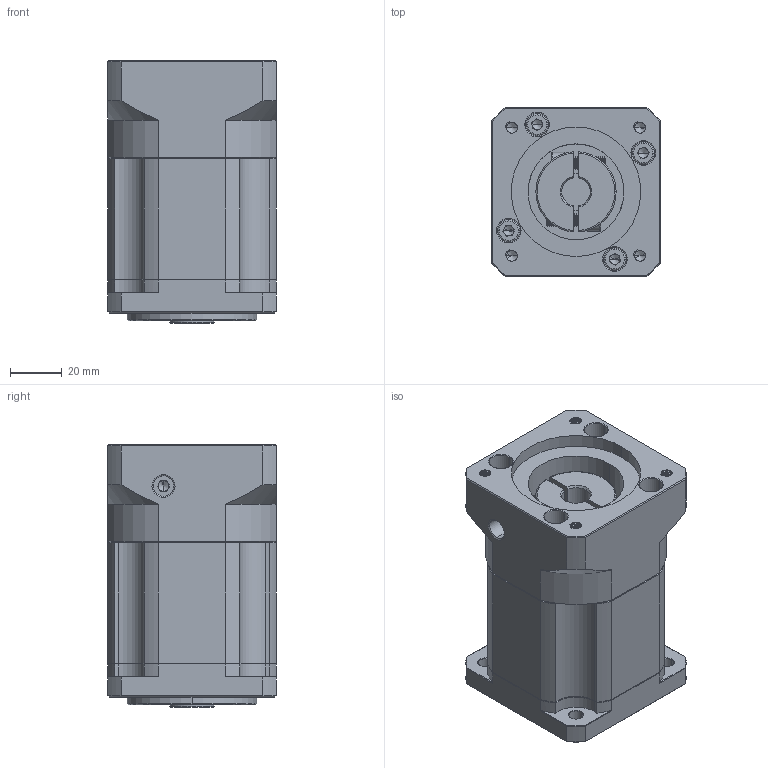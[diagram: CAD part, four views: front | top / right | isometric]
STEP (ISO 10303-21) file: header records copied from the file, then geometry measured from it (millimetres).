
FILE_DESCRIPTION (( 'STEP AP214' ), '1' );
FILE_NAME ('ZB60-K10-L2-11-50-70-M5.STEP', '2022-04-17T07:33:47', ( '' ), ( 'Microsoft' ), 'SwSTEP 2.0', 'SolidWorks 2016', '' );
FILE_SCHEMA (( 'AUTOMOTIVE_DESIGN' ));
Length unit declared in the file: millimetre
Products named in the file (1): ZB60-K10-L2-11-50-70-M5
Bounding box: 65 x 65 x 101.5 mm (x, y, z)
Volume: 322612.8 mm3; surface area: 57855.4 mm2
Topology: 6 solids, 6 shells, 1833 faces, 4859 edges, 3112 vertices
Faces by surface type: plane 876, cylinder 354, bspline 292, cone 277, torus 34
Entity records: 95857 total; most frequent: CARTESIAN_POINT 32323, ORIENTED_EDGE 9662, DIRECTION 8003, EDGE_CURVE 4831, VERTEX_POINT 3112, LINE 2983, VECTOR 2983, AXIS2_PLACEMENT_3D 2510
